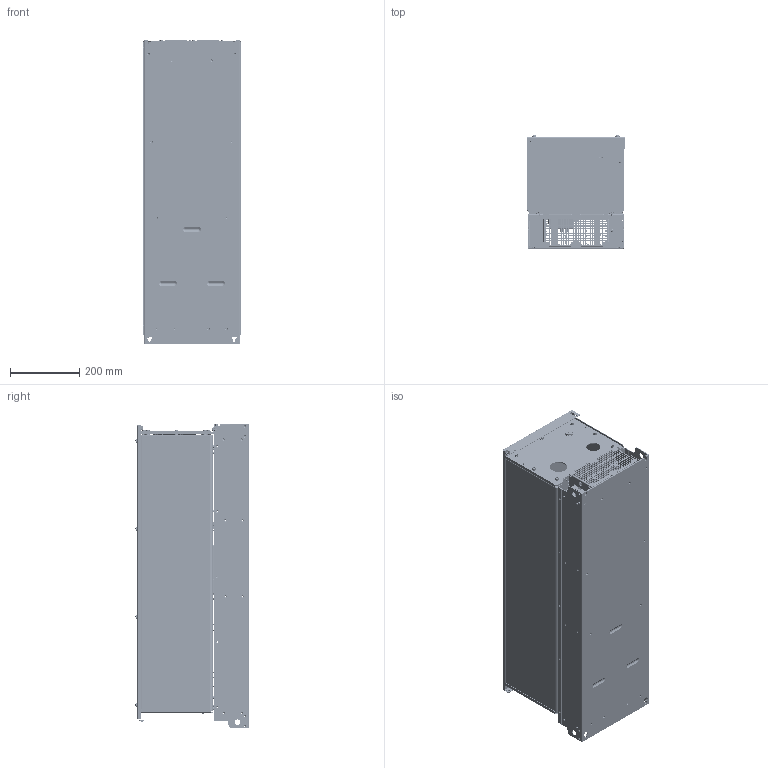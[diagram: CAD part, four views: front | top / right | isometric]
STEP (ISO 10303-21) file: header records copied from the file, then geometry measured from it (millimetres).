
FILE_DESCRIPTION(('STEP AP242'),'1');
FILE_NAME('atv212wd37n4.stp','2021-02-17T20:07:43',('TraceParts'),('TraceParts S.A.'),'Spatial InterOp 3D',' ',' ');
FILE_SCHEMA(('AP242_MANAGED_MODEL_BASED_3D_ENGINEERING_MIM_LF {1 0 10303 442 1 1 4}'));
Length unit declared in the file: millimetre
Products named in the file (1): atv212wd37n4_1
Bounding box: 285 x 327.67 x 880 mm (x, y, z)
Volume: 3030613.9 mm3; surface area: 3556855 mm2
Topology: 176 solids, 176 shells, 7585 faces, 19518 edges, 12342 vertices
Faces by surface type: cylinder 2972, plane 2900, cone 776, torus 468, sphere 262, bspline 186, extrusion 21
Entity records: 251242 total; most frequent: CARTESIAN_POINT 62251, DIRECTION 40392, ORIENTED_EDGE 38554, EDGE_CURVE 19277, AXIS2_PLACEMENT_3D 15117, VERTEX_POINT 12342, VECTOR 10158, LINE 10137
